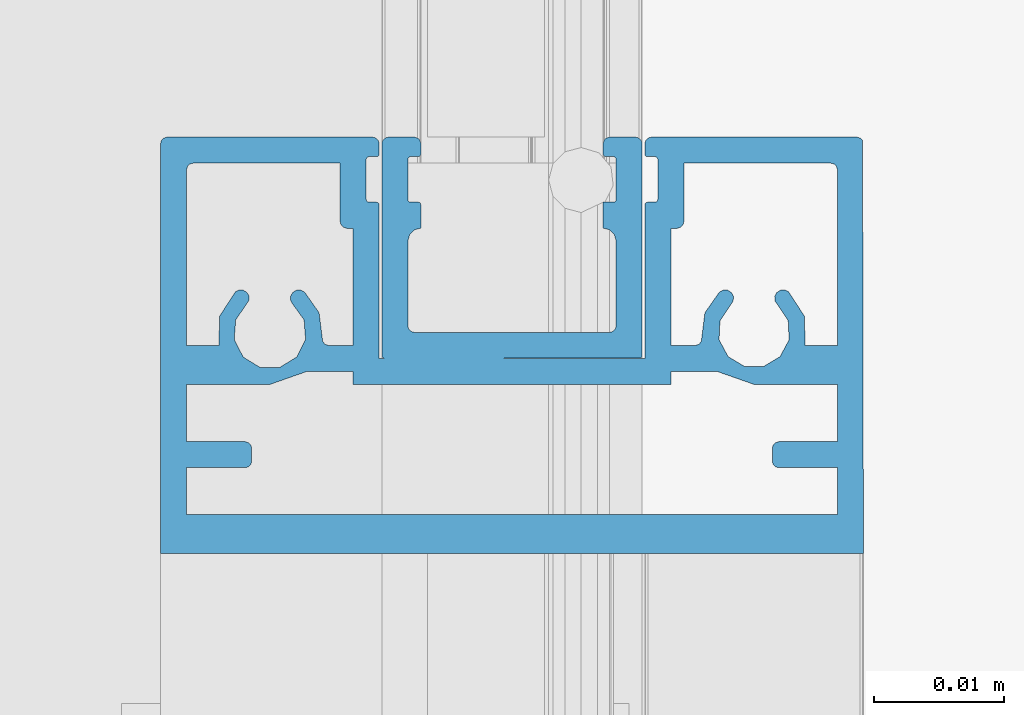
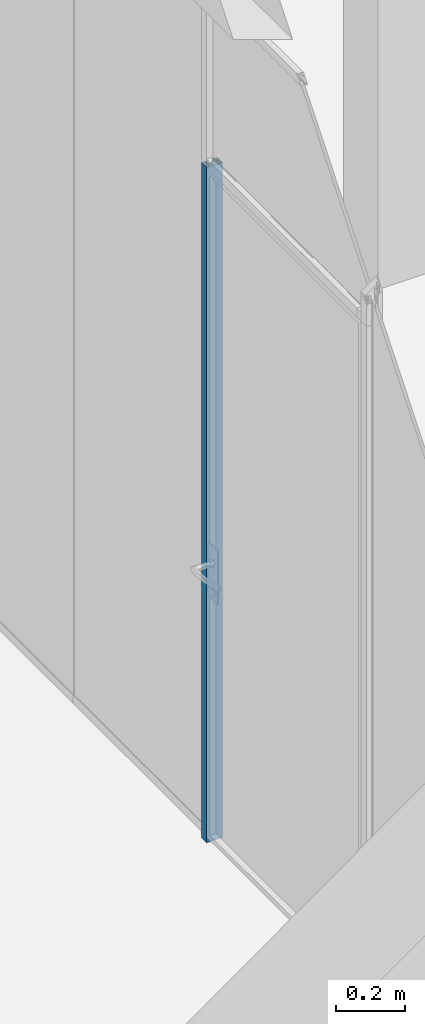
# One storey, part 64 of 387: 1 building element part, 2 elements without a shape of their own.
"""IFC2X3 building model written with IfcOpenShell, lengths in millimetres."""

from ifc_helpers import new_model, entity, si_unit, converted_unit, derived_unit, money_unit, direction, frame, origin_with_axes, place, context, subcontext, project, spatial, faceted_brep, source, transform, mapped, material, type_object, element, aggregate, save


model = new_model("IFC2X3")

# Units and contexts
model_context = context("Model", 3, precision=0.01, world=origin_with_axes(), true_north=direction((0.0, 1.0)))
body_context = subcontext(model_context, "Body", "Model", "MODEL_VIEW")
ifc_project = project(units=[si_unit("LENGTHUNIT", "METRE", prefix="MILLI"), si_unit("AREAUNIT", "SQUARE_METRE"), si_unit("VOLUMEUNIT", "CUBIC_METRE"), converted_unit("PLANEANGLEUNIT", "DEGREE", entity("IfcPlaneAngleMeasure", 0.0174532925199), si_unit("PLANEANGLEUNIT", "RADIAN"), dimensions=[0, 0, 0, 0, 0, 0, 0]), si_unit("SOLIDANGLEUNIT", "STERADIAN"), money_unit("EUR"), converted_unit("TIMEUNIT", "Year", entity("IfcTimeMeasure", 31556926.0), si_unit("TIMEUNIT", "SECOND"), dimensions=[0, 0, 1, 0, 0, 0, 0]), si_unit("MASSUNIT", "GRAM", prefix="KILO"), si_unit("THERMODYNAMICTEMPERATUREUNIT", "DEGREE_CELSIUS"), si_unit("LUMINOUSINTENSITYUNIT", "LUMEN"), si_unit("ENERGYUNIT", "JOULE", prefix="MEGA"), derived_unit("THERMALCONDUCTANCEUNIT", [(si_unit("POWERUNIT", "WATT"), 1), (si_unit("LENGTHUNIT", "METRE"), -1), (si_unit("THERMODYNAMICTEMPERATUREUNIT", "KELVIN"), -1)]), derived_unit("SPECIFICHEATCAPACITYUNIT", [(si_unit("ENERGYUNIT", "JOULE"), 1), (si_unit("MASSUNIT", "GRAM", prefix="KILO"), -1), (si_unit("THERMODYNAMICTEMPERATUREUNIT", "KELVIN"), -1)]), derived_unit("MASSDENSITYUNIT", [(si_unit("MASSUNIT", "GRAM", prefix="KILO"), 1), (si_unit("VOLUMEUNIT", "CUBIC_METRE"), -1)])], contexts=[model_context])

# Site, building, storey
site_placement = place(None, origin_with_axes())
site = spatial("IfcSite", under=ifc_project, at=site_placement, Name="Puškini 31, Narva", CompositionType="ELEMENT")
building_placement = place(site_placement, origin_with_axes())
building = spatial("IfcBuilding", under=site, at=building_placement, Name="Narva Riigigümnaasium", CompositionType="ELEMENT")
storey_placement = place(building_placement, frame((0.0, 0.0, 2640.0), z_axis=(0.0, 0.0, 1.0), x_axis=(1.0, 0.0, 0.0)))
storey = spatial("IfcBuildingStorey", under=building, at=storey_placement, Name="2.korrus +2.64", CompositionType="ELEMENT", Elevation=2640.0)

# Curtain wall, member, building element part
curtain_wall_type = type_object("IfcCurtainWallType", Name="Curtain Wall Type", PredefinedType="NOTDEFINED")
curtain_wall_placement = place(storey_placement, frame((28390.0000002, 176724.161139, -5.42380846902e-05), z_axis=(0.0, 0.0, 1.0), x_axis=(1.0, 0.0, 0.0)))
curtain_wall = element("IfcCurtainWall", 1, at=curtain_wall_placement, inside=storey, type_object=curtain_wall_type, Name="G-SKLF-12")
member_type = type_object("IfcMemberType", Name="32 x 27", PredefinedType="MULLION")
member_placement = place(curtain_wall_placement, frame((-9.13757958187e-09, 591.810892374, 0.0), z_axis=(0.0, 0.0, 1.0), x_axis=(0.0, 1.0, 0.0)))
member = element("IfcMember", 2, at=member_placement, type_object=member_type, Name="G-SKLF-12-raam", ObjectType="MULLION")
aggregate(curtain_wall, [member])
ifc_material = material(Name="ET-04_Alumiinium")
shared_shape = source(origin_with_axes(), body_context, "Body", "Brep", [
    faceted_brep([(-31.7500000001, 26.9330127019, 0.0), (-31.7500000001, 26.9330127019, 2400.00000477), (0.0, 27.0, 2400.00000477), (0.0, 27.0, 0.0), (-31.933012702, 26.75, 0.0), (-31.933012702, 26.75, 2400.00000477), (-32.0000000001, 26.5, 2400.00000477), (-32.0, 10.7, 2400.00000477), (-31.9330127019, 10.45, 2400.00000477), (-31.75, 10.2669872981, 2400.00000477), (-31.5, 10.2, 2400.00000477), (-30.7, 10.2, 2400.00000477), (-30.6, 10.2267949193, 2400.00000477), (-30.5267949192, 10.3, 2400.00000477), (-30.5, 10.4, 2400.00000477), (-30.5, 11.0, 2400.00000477), (-30.4732050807, 11.1, 2400.00000477), (-30.4, 11.1732050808, 2400.00000477), (-30.3, 11.2, 2400.00000477), (-27.2, 11.2, 2400.00000477), (-27.1, 11.1732050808, 2400.00000477), (-27.0267949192, 11.1, 2400.00000477), (-27.0, 11.0, 2400.00000477), (-27.0, 10.4, 2400.00000477), (-26.9732050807, 10.3, 2400.00000477), (-26.9, 10.2267949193, 2400.00000477), (-26.8, 10.2, 2400.00000477), (-15.0, 10.2, 2400.00000477), (-15.0, 9.79999999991, 2400.00000477), (-15.0, -9.80000000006, 2400.00000477), (-15.0, -10.2, 2400.00000477), (-26.7999999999, -10.2000000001, 2400.00000477), (-26.8999999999, -10.2267949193, 2400.00000477), (-26.9732050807, -10.3000000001, 2400.00000477), (-27.0, -10.4000000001, 2400.00000477), (-27.0, -11.0, 2400.00000477), (-27.0267949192, -11.1, 2400.00000477), (-27.1, -11.1732050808, 2400.00000477), (-27.2, -11.2, 2400.00000477), (-30.3, -11.2, 2400.00000477), (-30.4, -11.1732050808, 2400.00000477), (-30.4732050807, -11.1, 2400.00000477), (-30.5, -11.0, 2400.00000477), (-30.5, -10.4, 2400.00000477), (-30.5267949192, -10.3, 2400.00000477), (-30.6, -10.2267949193, 2400.00000477), (-30.7, -10.2, 2400.00000477), (-31.5, -10.2, 2400.00000477), (-31.75, -10.2669872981, 2400.00000477), (-31.9330127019, -10.45, 2400.00000477), (-32.0, -10.7000000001, 2400.00000477), (-32.0, -26.5, 2400.00000477), (-31.9330127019, -26.75, 2400.00000477), (-31.75, -26.9330127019, 2400.00000477), (-31.5, -27.0, 2400.00000477), (0.0, -27.0, 2400.00000477), (-3.0, -25.0, 2400.00000477), (-6.6, -25.0, 2400.00000477), (-6.6, -20.5, 2400.00000477), (-6.66698729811, -20.25, 2400.00000477), (-6.85, -20.0669872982, 2400.00000477), (-7.1, -20.0000000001, 2400.00000477), (-8.09999999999, -20.0, 2400.00000477), (-8.34999999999, -20.0669872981, 2400.00000477), (-8.53301270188, -20.25, 2400.00000477), (-8.59999999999, -20.5, 2400.00000477), (-8.59999999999, -25.0, 2400.00000477), (-13.0, -25.0, 2400.00000477), (-13.0, -18.6, 2400.00000477), (-13.8901098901, -16.0667028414, 2400.00000477), (-14.0, -15.7539501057, 2400.00000477), (-14.0, -12.2, 2400.00000477), (-13.0, -12.2, 2400.00000477), (-13.0, 12.2, 2400.00000477), (-14.0, 12.2, 2400.00000477), (-14.0, 15.7539501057, 2400.00000477), (-13.8901098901, 16.0667028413, 2400.00000477), (-13.0, 18.6, 2400.00000477), (-13.0, 25.0, 2400.00000477), (-8.59999999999, 25.0, 2400.00000477), (-8.59999999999, 20.5, 2400.00000477), (-8.53301270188, 20.25, 2400.00000477), (-8.34999999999, 20.0669872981, 2400.00000477), (-8.09999999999, 20.0, 2400.00000477), (-7.1, 20.0, 2400.00000477), (-6.85, 20.0669872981, 2400.00000477), (-6.6669872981, 20.25, 2400.00000477), (-6.6, 20.5, 2400.00000477), (-6.6, 25.0, 2400.00000477), (-3.0, 25.0, 2400.00000477), (-19.476186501, -20.1957226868, 2400.00000477), (-19.7983760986, -20.2065593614, 2400.00000477), (-20.0757343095, -20.3708639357, 2400.00000477), (-20.2400388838, -20.6482221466, 2400.00000477), (-20.2508755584, -20.9704117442, 2400.00000477), (-20.1055788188, -21.2581832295, 2400.00000477), (-18.2324976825, -22.4735254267, 2400.00000477), (-16.0, -22.5115214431, 2400.00000477), (-16.0, -25.0, 2400.00000477), (-29.4999999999, -25.0, 2400.00000477), (-29.7499999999, -24.9330127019, 2400.00000477), (-29.9330127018, -24.75, 2400.00000477), (-29.9999999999, -24.5, 2400.00000477), (-30.0, -13.2, 2400.00000477), (-25.5, -13.2, 2400.00000477), (-25.25, -13.1330127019, 2400.00000477), (-25.0669872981, -12.95, 2400.00000477), (-25.0, -12.7, 2400.00000477), (-25.0, -12.2, 2400.00000477), (-16.0, -12.2, 2400.00000477), (-16.0, -14.0833640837, 2400.00000477), (-16.0774356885, -14.3506455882, 2400.00000477), (-16.2857576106, -14.5351385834, 2400.00000477), (-16.5604395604, -14.5796977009, 2400.00000477), (-18.5025683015, -14.8194517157, 2400.00000477), (-20.1055788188, -15.9418167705, 2400.00000477), (-20.2539421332, -16.2300731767, 2400.00000477), (-20.2446330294, -16.5541360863, 2400.00000477), (-20.0799669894, -16.8334003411, 2400.00000477), (-19.8009019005, -16.9984036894, 2400.00000477), (-19.4768504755, -17.0081043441, 2400.00000477), (-19.1884150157, -16.8600894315, 2400.00000477), (-17.9594363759, -15.9748438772, 2400.00000477), (-16.4491363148, -15.8606426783, 2400.00000477), (-15.101017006, -16.5510212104, 2400.00000477), (-14.3109559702, -17.8432486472, 2400.00000477), (-14.3109559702, -19.3578602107, 2400.00000477), (-15.101017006, -20.6500876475, 2400.00000477), (-16.4491363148, -21.3404661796, 2400.00000477), (-17.9594363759, -21.2262649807, 2400.00000477), (-19.4040597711, 16.9891590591, 2400.00000477), (-19.7431334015, 17.0156698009, 2400.00000477), (-20.0491908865, 16.8673371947, 2400.00000477), (-20.2384633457, 16.5847603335, 2400.00000477), (-20.2591463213, 16.2452813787, 2400.00000477), (-20.1055788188, 15.9418167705, 2400.00000477), (-18.5025683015, 14.8194517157, 2400.00000477), (-16.5604395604, 14.5796977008, 2400.00000477), (-16.2857576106, 14.5351385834, 2400.00000477), (-16.0774356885, 14.3506455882, 2400.00000477), (-16.0, 14.0833640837, 2400.00000477), (-16.0, 12.2, 2400.00000477), (-25.0, 12.2, 2400.00000477), (-25.0, 12.7, 2400.00000477), (-25.0669872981, 12.95, 2400.00000477), (-25.25, 13.1330127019, 2400.00000477), (-25.5, 13.2, 2400.00000477), (-30.0, 13.2, 2400.00000477), (-30.0, 24.5, 2400.00000477), (-29.9330127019, 24.75, 2400.00000477), (-29.75, 24.9330127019, 2400.00000477), (-29.5, 25.0, 2400.00000477), (-16.0, 25.0, 2400.00000477), (-16.0, 22.5115214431, 2400.00000477), (-18.2324976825, 22.4735254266, 2400.00000477), (-20.1055788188, 21.2581832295, 2400.00000477), (-20.2586063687, 20.9548173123, 2400.00000477), (-20.2376817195, 20.6156853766, 2400.00000477), (-20.0485211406, 20.3334326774, 2400.00000477), (-19.7428001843, 20.185166, 2400.00000477), (-19.4040367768, 20.2113893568, 2400.00000477), (-19.1247754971, 20.4049389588, 2400.00000477), (-17.9010883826, 21.2200171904, 2400.00000477), (-16.4324884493, 21.290564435, 2400.00000477), (-15.1363081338, 20.5965332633, 2400.00000477), (-14.3808833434, 19.3351466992, 2400.00000477), (-14.3808833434, 17.8648533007, 2400.00000477), (-15.1363081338, 16.6034667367, 2400.00000477), (-16.4324884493, 15.9094355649, 2400.00000477), (-17.9010883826, 15.9799828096, 2400.00000477), (0.0, -27.0, 0.0), (-31.5, -27.0, 0.0), (-31.75, -26.9330127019, 0.0), (-31.9330127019, -26.75, 0.0), (-32.0, -26.5, 0.0), (-32.0, -10.7000000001, 0.0), (-31.9330127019, -10.45, 0.0), (-31.75, -10.2669872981, 0.0), (-31.5, -10.2, 0.0), (-30.7, -10.2, 0.0), (-30.6, -10.2267949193, 0.0), (-30.5267949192, -10.3, 0.0), (-30.5, -10.4, 0.0), (-30.5, -11.0, 0.0), (-30.4732050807, -11.1, 0.0), (-30.4, -11.1732050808, 0.0), (-30.3, -11.2, 0.0), (-27.2, -11.2, 0.0), (-27.1, -11.1732050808, 0.0), (-27.0267949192, -11.1, 0.0), (-27.0, -11.0, 0.0), (-27.0, -10.4000000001, 0.0), (-26.9732050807, -10.3000000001, 0.0), (-26.8999999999, -10.2267949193, 0.0), (-26.7999999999, -10.2000000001, 0.0), (-15.0, -10.2, 0.0), (-15.0, -9.80000000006, 0.0), (-15.0, 9.79999999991, 0.0), (-15.0, 10.2, 0.0), (-26.8, 10.2, 0.0), (-26.9, 10.2267949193, 0.0), (-26.9732050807, 10.3, 0.0), (-27.0, 10.4, 0.0), (-27.0, 11.0, 0.0), (-27.0267949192, 11.1, 0.0), (-27.1, 11.1732050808, 0.0), (-27.2, 11.2, 0.0), (-30.3, 11.2, 0.0), (-30.4, 11.1732050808, 0.0), (-30.4732050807, 11.1, 0.0), (-30.5, 11.0, 0.0), (-30.5, 10.4, 0.0), (-30.5267949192, 10.3, 0.0), (-30.6, 10.2267949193, 0.0), (-30.7, 10.2, 0.0), (-31.5, 10.2, 0.0), (-31.75, 10.2669872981, 0.0), (-31.9330127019, 10.45, 0.0), (-32.0, 10.7, 0.0), (-32.0000000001, 26.5, 0.0), (-3.0, -25.0, 0.0), (-3.0, 25.0, 0.0), (-6.6, 25.0, 0.0), (-6.6, 20.5, 0.0), (-6.6669872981, 20.25, 0.0), (-6.85, 20.0669872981, 0.0), (-7.1, 20.0, 0.0), (-8.09999999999, 20.0, 0.0), (-8.34999999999, 20.0669872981, 0.0), (-8.53301270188, 20.25, 0.0), (-8.59999999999, 20.5, 0.0), (-8.59999999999, 25.0, 0.0), (-13.0, 25.0, 0.0), (-13.0, 18.6, 0.0), (-13.8901098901, 16.0667028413, 0.0), (-14.0, 15.7539501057, 0.0), (-14.0, 12.2, 0.0), (-13.0, 12.2, 0.0), (-13.0, -12.2, 0.0), (-14.0, -12.2, 0.0), (-14.0, -15.7539501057, 0.0), (-13.8901098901, -16.0667028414, 0.0), (-13.0, -18.6, 0.0), (-13.0, -25.0, 0.0), (-8.59999999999, -25.0, 0.0), (-8.59999999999, -20.5, 0.0), (-8.53301270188, -20.25, 0.0), (-8.34999999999, -20.0669872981, 0.0), (-8.09999999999, -20.0, 0.0), (-7.1, -20.0000000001, 0.0), (-6.85, -20.0669872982, 0.0), (-6.66698729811, -20.25, 0.0), (-6.6, -20.5, 0.0), (-6.6, -25.0, 0.0), (-19.476186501, -20.1957226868, 0.0), (-17.9594363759, -21.2262649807, 0.0), (-16.4491363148, -21.3404661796, 0.0), (-15.101017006, -20.6500876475, 0.0), (-14.3109559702, -19.3578602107, 0.0), (-14.3109559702, -17.8432486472, 0.0), (-15.101017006, -16.5510212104, 0.0), (-16.4491363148, -15.8606426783, 0.0), (-17.9594363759, -15.9748438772, 0.0), (-19.1884150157, -16.8600894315, 0.0), (-19.4768504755, -17.0081043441, 0.0), (-19.8009019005, -16.9984036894, 0.0), (-20.0799669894, -16.8334003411, 0.0), (-20.2446330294, -16.5541360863, 0.0), (-20.2539421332, -16.2300731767, 0.0), (-20.1055788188, -15.9418167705, 0.0), (-18.5025683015, -14.8194517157, 0.0), (-16.5604395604, -14.5796977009, 0.0), (-16.2857576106, -14.5351385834, 0.0), (-16.0774356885, -14.3506455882, 0.0), (-16.0, -14.0833640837, 0.0), (-16.0, -12.2, 0.0), (-25.0, -12.2, 0.0), (-25.0, -12.7, 0.0), (-25.0669872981, -12.95, 0.0), (-25.25, -13.1330127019, 0.0), (-25.5, -13.2, 0.0), (-30.0, -13.2, 0.0), (-29.9999999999, -24.5, 0.0), (-29.9330127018, -24.75, 0.0), (-29.7499999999, -24.9330127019, 0.0), (-29.4999999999, -25.0, 0.0), (-16.0, -25.0, 0.0), (-16.0, -22.5115214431, 0.0), (-18.2324976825, -22.4735254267, 0.0), (-20.1055788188, -21.2581832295, 0.0), (-20.2508755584, -20.9704117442, 0.0), (-20.2400388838, -20.6482221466, 0.0), (-20.0757343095, -20.3708639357, 0.0), (-19.7983760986, -20.2065593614, 0.0), (-19.4040597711, 16.9891590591, 0.0), (-17.9010883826, 15.9799828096, 0.0), (-16.4324884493, 15.9094355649, 0.0), (-15.1363081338, 16.6034667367, 0.0), (-14.3808833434, 17.8648533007, 0.0), (-14.3808833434, 19.3351466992, 0.0), (-15.1363081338, 20.5965332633, 0.0), (-16.4324884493, 21.290564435, 0.0), (-17.9010883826, 21.2200171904, 0.0), (-19.1247754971, 20.4049389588, 0.0), (-19.4040367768, 20.2113893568, 0.0), (-19.7428001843, 20.185166, 0.0), (-20.0485211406, 20.3334326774, 0.0), (-20.2376817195, 20.6156853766, 0.0), (-20.2586063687, 20.9548173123, 0.0), (-20.1055788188, 21.2581832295, 0.0), (-18.2324976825, 22.4735254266, 0.0), (-16.0, 22.5115214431, 0.0), (-16.0, 25.0, 0.0), (-29.5, 25.0, 0.0), (-29.75, 24.9330127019, 0.0), (-29.9330127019, 24.75, 0.0), (-30.0, 24.5, 0.0), (-30.0, 13.2, 0.0), (-25.5, 13.2, 0.0), (-25.25, 13.1330127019, 0.0), (-25.0669872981, 12.95, 0.0), (-25.0, 12.7, 0.0), (-25.0, 12.2, 0.0), (-16.0, 12.2, 0.0), (-16.0, 14.0833640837, 0.0), (-16.0774356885, 14.3506455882, 0.0), (-16.2857576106, 14.5351385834, 0.0), (-16.5604395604, 14.5796977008, 0.0), (-18.5025683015, 14.8194517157, 0.0), (-20.1055788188, 15.9418167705, 0.0), (-20.2591463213, 16.2452813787, 0.0), (-20.2384633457, 16.5847603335, 0.0), (-20.0491908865, 16.8673371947, 0.0), (-19.7431334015, 17.0156698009, 0.0)], [[[0, 1, 2, 3]], [[4, 5, 1, 0]], [[1, 5, 6, 7, 8, 9, 10, 11, 12, 13, 14, 15, 16, 17, 18, 19, 20, 21, 22, 23, 24, 25, 26, 27, 28, 29, 30, 31, 32, 33, 34, 35, 36, 37, 38, 39, 40, 41, 42, 43, 44, 45, 46, 47, 48, 49, 50, 51, 52, 53, 54, 55, 2], [56, 57, 58, 59, 60, 61, 62, 63, 64, 65, 66, 67, 68, 69, 70, 71, 72, 73, 74, 75, 76, 77, 78, 79, 80, 81, 82, 83, 84, 85, 86, 87, 88, 89], [90, 91, 92, 93, 94, 95, 96, 97, 98, 99, 100, 101, 102, 103, 104, 105, 106, 107, 108, 109, 110, 111, 112, 113, 114, 115, 116, 117, 118, 119, 120, 121, 122, 123, 124, 125, 126, 127, 128, 129], [130, 131, 132, 133, 134, 135, 136, 137, 138, 139, 140, 141, 142, 143, 144, 145, 146, 147, 148, 149, 150, 151, 152, 153, 154, 155, 156, 157, 158, 159, 160, 161, 162, 163, 164, 165, 166, 167, 168, 169]], [[3, 2, 55, 170]], [[0, 3, 170, 171, 172, 173, 174, 175, 176, 177, 178, 179, 180, 181, 182, 183, 184, 185, 186, 187, 188, 189, 190, 191, 192, 193, 194, 195, 196, 197, 198, 199, 200, 201, 202, 203, 204, 205, 206, 207, 208, 209, 210, 211, 212, 213, 214, 215, 216, 217, 218, 219, 4], [220, 221, 222, 223, 224, 225, 226, 227, 228, 229, 230, 231, 232, 233, 234, 235, 236, 237, 238, 239, 240, 241, 242, 243, 244, 245, 246, 247, 248, 249, 250, 251, 252, 253], [254, 255, 256, 257, 258, 259, 260, 261, 262, 263, 264, 265, 266, 267, 268, 269, 270, 271, 272, 273, 274, 275, 276, 277, 278, 279, 280, 281, 282, 283, 284, 285, 286, 287, 288, 289, 290, 291, 292, 293], [294, 295, 296, 297, 298, 299, 300, 301, 302, 303, 304, 305, 306, 307, 308, 309, 310, 311, 312, 313, 314, 315, 316, 317, 318, 319, 320, 321, 322, 323, 324, 325, 326, 327, 328, 329, 330, 331, 332, 333]], [[219, 6, 5, 4]], [[218, 7, 6, 219]], [[217, 8, 7, 218]], [[216, 9, 8, 217]], [[215, 10, 9, 216]], [[214, 11, 10, 215]], [[213, 12, 11, 214]], [[212, 13, 12, 213]], [[211, 14, 13, 212]], [[210, 15, 14, 211]], [[209, 16, 15, 210]], [[208, 17, 16, 209]], [[207, 18, 17, 208]], [[206, 19, 18, 207]], [[205, 20, 19, 206]], [[204, 21, 20, 205]], [[203, 22, 21, 204]], [[202, 23, 22, 203]], [[201, 24, 23, 202]], [[200, 25, 24, 201]], [[199, 26, 25, 200]], [[198, 27, 26, 199]], [[197, 28, 27, 198]], [[196, 29, 28, 197]], [[195, 30, 29, 196]], [[194, 31, 30, 195]], [[193, 32, 31, 194]], [[192, 33, 32, 193]], [[191, 34, 33, 192]], [[190, 35, 34, 191]], [[189, 36, 35, 190]], [[188, 37, 36, 189]], [[187, 38, 37, 188]], [[186, 39, 38, 187]], [[185, 40, 39, 186]], [[184, 41, 40, 185]], [[183, 42, 41, 184]], [[182, 43, 42, 183]], [[181, 44, 43, 182]], [[180, 45, 44, 181]], [[179, 46, 45, 180]], [[178, 47, 46, 179]], [[177, 48, 47, 178]], [[176, 49, 48, 177]], [[175, 50, 49, 176]], [[174, 51, 50, 175]], [[173, 52, 51, 174]], [[172, 53, 52, 173]], [[171, 54, 53, 172]], [[170, 55, 54, 171]], [[253, 57, 56, 220]], [[252, 58, 57, 253]], [[251, 59, 58, 252]], [[250, 60, 59, 251]], [[249, 61, 60, 250]], [[248, 62, 61, 249]], [[247, 63, 62, 248]], [[246, 64, 63, 247]], [[245, 65, 64, 246]], [[244, 66, 65, 245]], [[243, 67, 66, 244]], [[242, 68, 67, 243]], [[241, 69, 68, 242]], [[240, 70, 69, 241]], [[239, 71, 70, 240]], [[238, 72, 71, 239]], [[237, 73, 72, 238]], [[236, 74, 73, 237]], [[235, 75, 74, 236]], [[234, 76, 75, 235]], [[233, 77, 76, 234]], [[232, 78, 77, 233]], [[231, 79, 78, 232]], [[230, 80, 79, 231]], [[229, 81, 80, 230]], [[228, 82, 81, 229]], [[227, 83, 82, 228]], [[226, 84, 83, 227]], [[225, 85, 84, 226]], [[224, 86, 85, 225]], [[223, 87, 86, 224]], [[222, 88, 87, 223]], [[221, 89, 88, 222]], [[220, 56, 89, 221]], [[293, 91, 90, 254]], [[292, 92, 91, 293]], [[291, 93, 92, 292]], [[290, 94, 93, 291]], [[289, 95, 94, 290]], [[288, 96, 95, 289]], [[287, 97, 96, 288]], [[286, 98, 97, 287]], [[285, 99, 98, 286]], [[284, 100, 99, 285]], [[283, 101, 100, 284]], [[282, 102, 101, 283]], [[281, 103, 102, 282]], [[280, 104, 103, 281]], [[279, 105, 104, 280]], [[278, 106, 105, 279]], [[277, 107, 106, 278]], [[276, 108, 107, 277]], [[275, 109, 108, 276]], [[274, 110, 109, 275]], [[273, 111, 110, 274]], [[272, 112, 111, 273]], [[271, 113, 112, 272]], [[270, 114, 113, 271]], [[269, 115, 114, 270]], [[268, 116, 115, 269]], [[267, 117, 116, 268]], [[266, 118, 117, 267]], [[265, 119, 118, 266]], [[264, 120, 119, 265]], [[263, 121, 120, 264]], [[262, 122, 121, 263]], [[261, 123, 122, 262]], [[260, 124, 123, 261]], [[259, 125, 124, 260]], [[258, 126, 125, 259]], [[257, 127, 126, 258]], [[256, 128, 127, 257]], [[255, 129, 128, 256]], [[254, 90, 129, 255]], [[333, 131, 130, 294]], [[332, 132, 131, 333]], [[331, 133, 132, 332]], [[330, 134, 133, 331]], [[329, 135, 134, 330]], [[328, 136, 135, 329]], [[327, 137, 136, 328]], [[326, 138, 137, 327]], [[325, 139, 138, 326]], [[324, 140, 139, 325]], [[323, 141, 140, 324]], [[322, 142, 141, 323]], [[321, 143, 142, 322]], [[320, 144, 143, 321]], [[319, 145, 144, 320]], [[318, 146, 145, 319]], [[317, 147, 146, 318]], [[316, 148, 147, 317]], [[315, 149, 148, 316]], [[314, 150, 149, 315]], [[313, 151, 150, 314]], [[312, 152, 151, 313]], [[311, 153, 152, 312]], [[310, 154, 153, 311]], [[309, 155, 154, 310]], [[308, 156, 155, 309]], [[307, 157, 156, 308]], [[306, 158, 157, 307]], [[305, 159, 158, 306]], [[304, 160, 159, 305]], [[303, 161, 160, 304]], [[302, 162, 161, 303]], [[301, 163, 162, 302]], [[300, 164, 163, 301]], [[299, 165, 164, 300]], [[298, 166, 165, 299]], [[297, 167, 166, 298]], [[296, 168, 167, 297]], [[295, 169, 168, 296]], [[294, 130, 169, 295]]]),
    faceted_brep([(-15.0267949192, 9.89999999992, 0.0), (-15.0267949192, 9.89999999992, 2400.00000477), (-15.0, -9.80000000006, 2400.00000477), (-15.0, -9.80000000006, 0.0), (-15.1, 9.97320508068, 0.0), (-15.1, 9.97320508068, 2400.00000477), (-15.2, 9.99999999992, 2400.00000477), (-31.5, 9.99999999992, 2400.00000477), (-31.75, 9.93301270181, 2400.00000477), (-31.9330127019, 9.74999999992, 2400.00000477), (-32.0, 9.49999999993, 2400.00000477), (-32.0, 7.49999999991, 2400.00000477), (-31.9330127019, 7.24999999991, 2400.00000477), (-31.75, 7.06698729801, 2400.00000477), (-31.5, 6.99999999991, 2400.00000477), (-30.7, 6.99999999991, 2400.00000477), (-30.6, 7.02679491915, 2400.00000477), (-30.5267949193, 7.09999999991, 2400.00000477), (-30.5, 7.19999999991, 2400.00000477), (-30.5, 7.79999999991, 2400.00000477), (-30.4732050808, 7.89999999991, 2400.00000477), (-30.4, 7.97320508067, 2400.00000477), (-30.3, 7.99999999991, 2400.00000477), (-27.2, 7.99999999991, 2400.00000477), (-27.1, 7.97320508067, 2400.00000477), (-27.0267949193, 7.89999999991, 2400.00000477), (-27.0, 7.7999999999, 2400.00000477), (-27.0, 7.14458303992, 2400.00000477), (-27.0, 6.99999999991, 2400.00000477), (-26.856872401, 6.99999999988, 2400.00000477), (-25.0092559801, 6.99999999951, 2400.00000477), (-24.8752813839, 7.49999999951, 2400.00000477), (-24.5092559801, 7.8660254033, 2400.00000477), (-24.0092559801, 7.99999999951, 2400.00000477), (-17.5, 7.99999999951, 2400.00000477), (-17.25, 7.9330127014, 2400.00000477), (-17.0669872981, 7.74999999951, 2400.00000477), (-17.0, 7.4999999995, 2400.00000477), (-17.0, -7.49999999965, 2400.00000477), (-17.0669872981, -7.74999999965, 2400.00000477), (-17.25, -7.93301270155, 2400.00000477), (-17.5, -7.99999999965, 2400.00000477), (-24.0092559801, -7.99999999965, 2400.00000477), (-24.5092559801, -7.86602540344, 2400.00000477), (-24.8752813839, -7.49999999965, 2400.00000477), (-25.0092559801, -6.99999999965, 2400.00000477), (-26.8, -7.0000000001, 2400.00000477), (-26.9, -7.02679491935, 2400.00000477), (-26.9732050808, -7.10000000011, 2400.00000477), (-27.0, -7.20000000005, 2400.00000477), (-27.0, -7.80000000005, 2400.00000477), (-27.0267949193, -7.90000000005, 2400.00000477), (-27.1, -7.97320508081, 2400.00000477), (-27.2, -8.00000000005, 2400.00000477), (-30.3, -8.00000000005, 2400.00000477), (-30.4, -7.97320508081, 2400.00000477), (-30.4732050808, -7.90000000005, 2400.00000477), (-30.5, -7.80000000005, 2400.00000477), (-30.5, -7.20000000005, 2400.00000477), (-30.5267949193, -7.10000000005, 2400.00000477), (-30.6, -7.02679491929, 2400.00000477), (-30.7, -7.00000000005, 2400.00000477), (-31.5, -7.00000000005, 2400.00000477), (-31.75, -7.06698729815, 2400.00000477), (-31.9330127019, -7.25000000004, 2400.00000477), (-32.0, -7.50000000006, 2400.00000477), (-32.0, -9.50000000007, 2400.00000477), (-31.9330127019, -9.75000000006, 2400.00000477), (-31.75, -9.93301270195, 2400.00000477), (-31.5, -10.0000000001, 2400.00000477), (-15.2, -10.0000000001, 2400.00000477), (-15.1, -9.97320508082, 2400.00000477), (-15.0267949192, -9.90000000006, 2400.00000477), (-15.0267949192, -9.90000000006, 0.0), (-15.1, -9.97320508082, 0.0), (-15.2, -10.0000000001, 0.0), (-31.5, -10.0000000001, 0.0), (-31.75, -9.93301270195, 0.0), (-31.9330127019, -9.75000000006, 0.0), (-32.0, -9.50000000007, 0.0), (-32.0, -7.50000000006, 0.0), (-31.9330127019, -7.25000000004, 0.0), (-31.75, -7.06698729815, 0.0), (-31.5, -7.00000000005, 0.0), (-30.7, -7.00000000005, 0.0), (-30.6, -7.02679491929, 0.0), (-30.5267949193, -7.10000000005, 0.0), (-30.5, -7.20000000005, 0.0), (-30.5, -7.80000000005, 0.0), (-30.4732050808, -7.90000000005, 0.0), (-30.4, -7.97320508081, 0.0), (-30.3, -8.00000000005, 0.0), (-27.2, -8.00000000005, 0.0), (-27.1, -7.97320508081, 0.0), (-27.0267949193, -7.90000000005, 0.0), (-27.0, -7.80000000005, 0.0), (-27.0, -7.20000000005, 0.0), (-26.9732050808, -7.10000000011, 0.0), (-26.9, -7.02679491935, 0.0), (-26.8, -7.0000000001, 0.0), (-25.0092559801, -6.99999999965, 0.0), (-24.8752813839, -7.49999999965, 0.0), (-24.5092559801, -7.86602540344, 0.0), (-24.0092559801, -7.99999999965, 0.0), (-17.5, -7.99999999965, 0.0), (-17.25, -7.93301270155, 0.0), (-17.0669872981, -7.74999999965, 0.0), (-17.0, -7.49999999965, 0.0), (-17.0, 7.4999999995, 0.0), (-17.0669872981, 7.74999999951, 0.0), (-17.25, 7.9330127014, 0.0), (-17.5, 7.99999999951, 0.0), (-24.0092559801, 7.99999999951, 0.0), (-24.5092559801, 7.8660254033, 0.0), (-24.8752813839, 7.49999999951, 0.0), (-25.0092559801, 6.99999999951, 0.0), (-26.856872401, 6.99999999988, 0.0), (-27.0, 6.99999999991, 0.0), (-27.0, 7.14458303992, 0.0), (-27.0, 7.7999999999, 0.0), (-27.0267949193, 7.89999999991, 0.0), (-27.1, 7.97320508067, 0.0), (-27.2, 7.99999999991, 0.0), (-30.3, 7.99999999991, 0.0), (-30.4, 7.97320508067, 0.0), (-30.4732050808, 7.89999999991, 0.0), (-30.5, 7.79999999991, 0.0), (-30.5, 7.19999999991, 0.0), (-30.5267949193, 7.09999999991, 0.0), (-30.6, 7.02679491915, 0.0), (-30.7, 6.99999999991, 0.0), (-31.5, 6.99999999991, 0.0), (-31.75, 7.06698729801, 0.0), (-31.9330127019, 7.24999999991, 0.0), (-32.0, 7.49999999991, 0.0), (-32.0, 9.49999999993, 0.0), (-31.9330127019, 9.74999999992, 0.0), (-31.75, 9.93301270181, 0.0), (-31.5, 9.99999999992, 0.0), (-15.2, 9.99999999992, 0.0)], [[[0, 1, 2, 3]], [[4, 5, 1, 0]], [[1, 5, 6, 7, 8, 9, 10, 11, 12, 13, 14, 15, 16, 17, 18, 19, 20, 21, 22, 23, 24, 25, 26, 27, 28, 29, 30, 31, 32, 33, 34, 35, 36, 37, 38, 39, 40, 41, 42, 43, 44, 45, 46, 47, 48, 49, 50, 51, 52, 53, 54, 55, 56, 57, 58, 59, 60, 61, 62, 63, 64, 65, 66, 67, 68, 69, 70, 71, 72, 2]], [[3, 2, 72, 73]], [[0, 3, 73, 74, 75, 76, 77, 78, 79, 80, 81, 82, 83, 84, 85, 86, 87, 88, 89, 90, 91, 92, 93, 94, 95, 96, 97, 98, 99, 100, 101, 102, 103, 104, 105, 106, 107, 108, 109, 110, 111, 112, 113, 114, 115, 116, 117, 118, 119, 120, 121, 122, 123, 124, 125, 126, 127, 128, 129, 130, 131, 132, 133, 134, 135, 136, 137, 138, 139, 4]], [[139, 6, 5, 4]], [[138, 7, 6, 139]], [[137, 8, 7, 138]], [[136, 9, 8, 137]], [[135, 10, 9, 136]], [[134, 11, 10, 135]], [[133, 12, 11, 134]], [[132, 13, 12, 133]], [[131, 14, 13, 132]], [[130, 15, 14, 131]], [[129, 16, 15, 130]], [[128, 17, 16, 129]], [[127, 18, 17, 128]], [[126, 19, 18, 127]], [[125, 20, 19, 126]], [[124, 21, 20, 125]], [[123, 22, 21, 124]], [[122, 23, 22, 123]], [[121, 24, 23, 122]], [[120, 25, 24, 121]], [[119, 26, 25, 120]], [[118, 27, 26, 119]], [[117, 28, 27, 118]], [[116, 29, 28, 117]], [[115, 30, 29, 116]], [[114, 31, 30, 115]], [[113, 32, 31, 114]], [[112, 33, 32, 113]], [[111, 34, 33, 112]], [[110, 35, 34, 111]], [[109, 36, 35, 110]], [[108, 37, 36, 109]], [[107, 38, 37, 108]], [[106, 39, 38, 107]], [[105, 40, 39, 106]], [[104, 41, 40, 105]], [[103, 42, 41, 104]], [[102, 43, 42, 103]], [[101, 44, 43, 102]], [[100, 45, 44, 101]], [[99, 46, 45, 100]], [[98, 47, 46, 99]], [[97, 48, 47, 98]], [[96, 49, 48, 97]], [[95, 50, 49, 96]], [[94, 51, 50, 95]], [[93, 52, 51, 94]], [[92, 53, 52, 93]], [[91, 54, 53, 92]], [[90, 55, 54, 91]], [[89, 56, 55, 90]], [[88, 57, 56, 89]], [[87, 58, 57, 88]], [[86, 59, 58, 87]], [[85, 60, 59, 86]], [[84, 61, 60, 85]], [[83, 62, 61, 84]], [[82, 63, 62, 83]], [[81, 64, 63, 82]], [[80, 65, 64, 81]], [[79, 66, 65, 80]], [[78, 67, 66, 79]], [[77, 68, 67, 78]], [[76, 69, 68, 77]], [[75, 70, 69, 76]], [[74, 71, 70, 75]], [[73, 72, 71, 74]]]),
])
building_element_part_placement = place(member_placement, origin_with_axes())
building_element_part = element("IfcBuildingElementPart", 3, at=building_element_part_placement, material=ifc_material, Name="ET-04_Alumiinium", context=body_context, shape_type="MappedRepresentation", body=[
    mapped(shared_shape, transform((0.0, 0.0, 0.0), x_axis=(-1.0, 0.0, 0.0), y_axis=(0.0, -1.0, 0.0), z_axis=(0.0, 0.0, 1.0))),
])
aggregate(member, [building_element_part])

save(model, "model.ifc")
